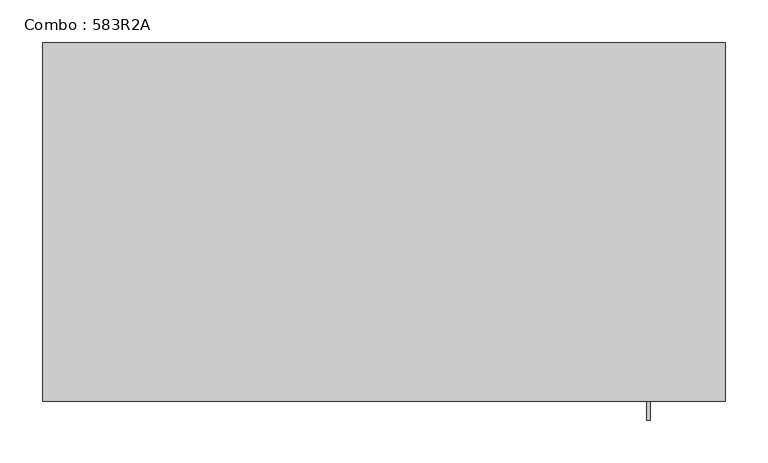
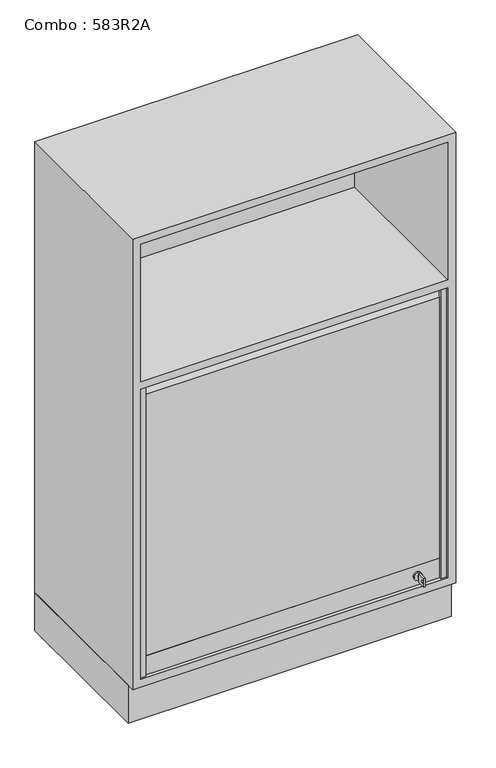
"""IFC4 building model written with IfcOpenShell, lengths in millimetres: furniture geometry, Combo : 583R2A."""

from ifc_helpers import new_model, si_unit, point, frame, frame_2d, origin, origin_with_axes, place, context, project, spatial, polyline, circle_curve, trimmed, segment, composite_curve, outline, extrude, faceted_brep, source, transform, mapped, element, save


def combo_583r2a_af021363(model_context):
    return source(origin(), model_context, "Body", "SolidModel", [
        extrude(outline(polyline([(-400.0, -400.0), (-400.0, 0.0), (400.0, 0.0), (400.0, -400.0), (-400.0, -400.0)])), origin_with_axes(), (0.0, 0.0, 1.0), 100.0),
        extrude(outline(composite_curve([segment(trimmed(circle_curve(frame_2d((145.0, 310.0)), 10.0), [point((145.0, 300.0))], [point((145.0, 320.0))], False, "CARTESIAN"), True, "CONTINUOUS"), segment(trimmed(circle_curve(frame_2d((145.0, 310.0)), 10.0), [point((145.0, 320.0))], [point((145.0, 300.0))], False, "CARTESIAN"), True, "CONTINUOUS")], self_intersect=False)), frame((0.0, -414.0, 0.0), z_axis=(0.0, 1.0, 0.0), x_axis=(0.0, 0.0, 1.0)), (0.0, 0.0, 1.0), 4.0),
        extrude(outline(polyline([(-442.0, 134.014113), (-442.0, 156.0), (-420.0, 156.0), (-420.0, 134.014113), (-442.0, 134.014113)]), holes=[composite_curve([segment(trimmed(circle_curve(frame_2d((-435.75, 145.0070565)), 3.2230706), [point((-435.75, 148.2301271))], [point((-435.75, 141.7839859))], True, "CARTESIAN"), True, "CONTINUOUS"), segment(trimmed(circle_curve(frame_2d((-435.75, 145.0070565)), 3.2230706), [point((-435.75, 141.7839859))], [point((-435.75, 148.2301271))], True, "CARTESIAN"), True, "CONTINUOUS")], self_intersect=False)]), frame((308.0, 0.0, 0.0), z_axis=(1.0, 0.0, 0.0), x_axis=(0.0, 1.0, 0.0)), (0.0, 0.0, 1.0), 4.0416064),
        extrude(outline(polyline([(311.0416064, -420.0), (309.0, -420.0), (309.0, -414.0), (311.0416064, -414.0), (311.0416064, -420.0)])), frame((0.0, 0.0, 141.014113), z_axis=(0.0, 0.0, 1.0), x_axis=(1.0, 0.0, 0.0)), (0.0, 0.0, 1.0), 7.985887),
        extrude(outline(polyline([(380.0, -400.0), (380.0, -410.0), (-380.0, -410.0), (-380.0, -400.0), (380.0, -400.0)])), frame((0.0, 0.0, 120.0), z_axis=(0.0, 0.0, 1.0), x_axis=(1.0, 0.0, 0.0)), (0.0, 0.0, 1.0), 50.0),
        extrude(outline(polyline([(-365.0, -415.0), (-380.0, -415.0), (-380.0, -410.0), (-365.0, -410.0), (-365.0, -415.0)])), frame((0.0, 0.0, 120.0), z_axis=(0.0, 0.0, 1.0), x_axis=(1.0, 0.0, 0.0)), (0.0, 0.0, 1.0), 760.0),
        extrude(outline(polyline([(380.0, -415.0), (365.0, -415.0), (365.0, -410.0), (380.0, -410.0), (380.0, -415.0)])), frame((0.0, 0.0, 120.0), z_axis=(0.0, 0.0, 1.0), x_axis=(1.0, 0.0, 0.0)), (0.0, 0.0, 1.0), 760.0),
        extrude(outline(composite_curve([segment(trimmed(circle_curve(frame_2d((-390.0, 854.0)), 20.0), [point((-410.0, 854.0))], [point((-390.0, 874.0))], False, "CARTESIAN"), True, "CONTINUOUS"), segment(polyline([(-390.0, 874.0), (-360.0, 874.0), (-360.0, 864.0), (-390.0, 864.0)]), True, "CONTINUOUS"), segment(trimmed(circle_curve(frame_2d((-390.0, 854.0)), 10.0), [point((-390.0, 864.0))], [point((-400.0, 854.0))], True, "CARTESIAN"), True, "CONTINUOUS"), segment(polyline([(-400.0, 854.0), (-400.0, 170.0), (-410.0, 170.0), (-410.0, 854.0)]), True, "CONTINUOUS")], self_intersect=False)), frame((-380.0, 0.0, 0.0), z_axis=(1.0, 0.0, 0.0), x_axis=(0.0, 1.0, 0.0)), (0.0, 0.0, 1.0), 760.0),
        faceted_brep([(400.0, 0.0, 1280.0), (-400.0, 0.0, 1280.0), (-400.0, -420.0, 1280.0), (400.0, -420.0, 1280.0), (-400.0, 0.0, 100.0), (400.0, 0.0, 100.0), (400.0, -420.0, 100.0), (-400.0, -420.0, 100.0), (-380.0, -420.0, 900.0), (-380.0, -420.0, 1260.0), (380.0, -420.0, 1260.0), (380.0, -420.0, 900.0), (380.0, -420.0, 880.0), (380.0, -420.0, 120.0), (-380.0, -420.0, 120.0), (-380.0, -420.0, 880.0), (-380.0, -20.0, 900.0), (-380.0, -20.0, 1260.0), (380.0, -20.0, 900.0), (-380.0, -20.0, 120.0), (380.0, -20.0, 120.0), (380.0, -20.0, 880.0), (-380.0, -20.0, 880.0), (380.0, -20.0, 1260.0)], [[[0, 1, 2, 3]], [[4, 5, 6, 7]], [[1, 0, 5, 4]], [[2, 1, 4, 7]], [[3, 2, 7, 6], [8, 9, 10, 11], [12, 13, 14, 15]], [[0, 3, 6, 5]], [[16, 17, 9, 8]], [[18, 16, 8, 11]], [[19, 20, 21, 22]], [[21, 20, 13, 12]], [[19, 22, 15, 14]], [[20, 19, 14, 13]], [[22, 21, 12, 15]], [[18, 23, 17, 16]], [[23, 18, 11, 10]], [[17, 23, 10, 9]]]),
    ])


if __name__ == "__main__":
    model = new_model("IFC4")
    model_context = context("Model", 3, world=origin())
    ifc_project = project(units=[si_unit("LENGTHUNIT", "METRE", prefix="MILLI")], contexts=[model_context])
    site = spatial("IfcSite", under=ifc_project)
    building = spatial("IfcBuilding", under=site)
    placement = place(None, origin())
    combo_583r2a_shape = combo_583r2a_af021363(model_context)
    element("IfcFurniture", 1, ObjectType="Combo : 583R2A", at=placement, inside=building, context=model_context, shape_type="MappedRepresentation", body=[
        mapped(combo_583r2a_shape, transform((0.0, 0.0, 0.0), x_axis=(1.0, 0.0, 0.0), y_axis=(0.0, 1.0, 0.0), z_axis=(0.0, 0.0, 1.0))),
    ])
    save(model, "model.ifc")
